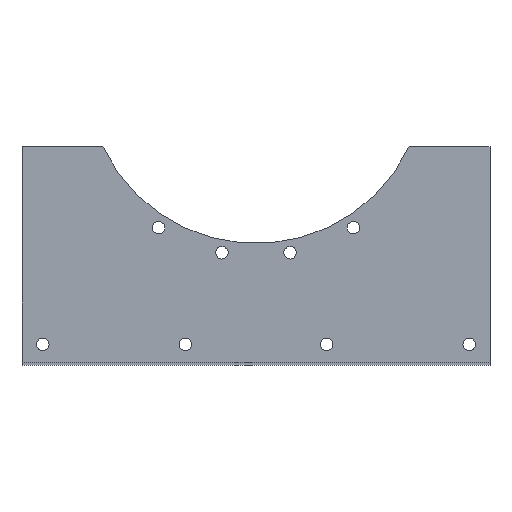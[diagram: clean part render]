
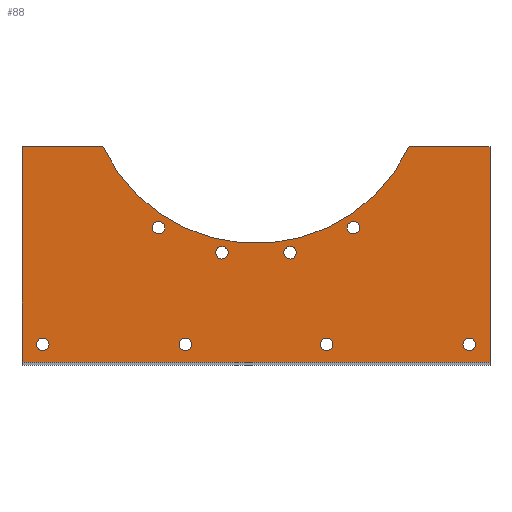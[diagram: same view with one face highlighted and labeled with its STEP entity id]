
A CAD part, top view. The second image highlights one B-rep face of the part: STEP entity #88.
In plain terms, the highlighted planar face has unit normal (0, 0, 1).
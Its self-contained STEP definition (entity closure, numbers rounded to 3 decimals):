
#88=ADVANCED_FACE('',(#184,#185,#186,#187,#188,#189,#190,#191,#192),#193,.T.);
#184=FACE_BOUND('',#285,.T.);
#185=FACE_BOUND('',#286,.T.);
#186=FACE_BOUND('',#287,.T.);
#187=FACE_BOUND('',#288,.T.);
#188=FACE_BOUND('',#289,.T.);
#189=FACE_BOUND('',#290,.T.);
#190=FACE_BOUND('',#291,.T.);
#191=FACE_BOUND('',#292,.T.);
#192=FACE_OUTER_BOUND('',#293,.T.);
#193=PLANE('',#294);
#285=EDGE_LOOP('',(#485,#486));
#286=EDGE_LOOP('',(#487,#488));
#287=EDGE_LOOP('',(#489,#490));
#288=EDGE_LOOP('',(#491,#492));
#289=EDGE_LOOP('',(#493,#494));
#290=EDGE_LOOP('',(#495,#496));
#291=EDGE_LOOP('',(#497,#498));
#292=EDGE_LOOP('',(#499,#500));
#293=EDGE_LOOP('',(#501,#502,#503,#504,#505,#506));
#294=AXIS2_PLACEMENT_3D('',#507,#508,#509);
#485=ORIENTED_EDGE('',*,*,#599,.T.);
#486=ORIENTED_EDGE('',*,*,#604,.T.);
#487=ORIENTED_EDGE('',*,*,#594,.T.);
#488=ORIENTED_EDGE('',*,*,#607,.T.);
#489=ORIENTED_EDGE('',*,*,#589,.T.);
#490=ORIENTED_EDGE('',*,*,#610,.T.);
#491=ORIENTED_EDGE('',*,*,#584,.T.);
#492=ORIENTED_EDGE('',*,*,#613,.T.);
#493=ORIENTED_EDGE('',*,*,#579,.T.);
#494=ORIENTED_EDGE('',*,*,#616,.T.);
#495=ORIENTED_EDGE('',*,*,#574,.T.);
#496=ORIENTED_EDGE('',*,*,#619,.T.);
#497=ORIENTED_EDGE('',*,*,#569,.T.);
#498=ORIENTED_EDGE('',*,*,#622,.T.);
#499=ORIENTED_EDGE('',*,*,#564,.T.);
#500=ORIENTED_EDGE('',*,*,#625,.T.);
#501=ORIENTED_EDGE('',*,*,#627,.T.);
#502=ORIENTED_EDGE('',*,*,#641,.F.);
#503=ORIENTED_EDGE('',*,*,#642,.F.);
#504=ORIENTED_EDGE('',*,*,#643,.F.);
#505=ORIENTED_EDGE('',*,*,#644,.F.);
#506=ORIENTED_EDGE('',*,*,#638,.F.);
#507=CARTESIAN_POINT('',(0.0,3.0,-17.0));
#508=DIRECTION('',(0.0,0.0,1.0));
#509=DIRECTION('',(1.0,0.0,0.0));
#564=EDGE_CURVE('',#664,#661,#665,.T.);
#569=EDGE_CURVE('',#673,#670,#674,.T.);
#574=EDGE_CURVE('',#682,#679,#683,.T.);
#579=EDGE_CURVE('',#691,#688,#692,.T.);
#584=EDGE_CURVE('',#700,#697,#701,.T.);
#589=EDGE_CURVE('',#709,#706,#710,.T.);
#594=EDGE_CURVE('',#718,#715,#719,.T.);
#599=EDGE_CURVE('',#727,#724,#728,.T.);
#604=EDGE_CURVE('',#724,#727,#734,.T.);
#607=EDGE_CURVE('',#715,#718,#737,.T.);
#610=EDGE_CURVE('',#706,#709,#740,.T.);
#613=EDGE_CURVE('',#697,#700,#743,.T.);
#616=EDGE_CURVE('',#688,#691,#746,.T.);
#619=EDGE_CURVE('',#679,#682,#749,.T.);
#622=EDGE_CURVE('',#670,#673,#752,.T.);
#625=EDGE_CURVE('',#661,#664,#755,.T.);
#627=EDGE_CURVE('',#757,#758,#759,.T.);
#638=EDGE_CURVE('',#757,#776,#777,.T.);
#641=EDGE_CURVE('',#780,#758,#781,.T.);
#642=EDGE_CURVE('',#782,#780,#783,.T.);
#643=EDGE_CURVE('',#784,#782,#785,.T.);
#644=EDGE_CURVE('',#776,#784,#786,.T.);
#661=VERTEX_POINT('',#807);
#664=VERTEX_POINT('',#811);
#665=CIRCLE('',#812,6.0);
#670=VERTEX_POINT('',#818);
#673=VERTEX_POINT('',#822);
#674=CIRCLE('',#823,6.0);
#679=VERTEX_POINT('',#829);
#682=VERTEX_POINT('',#833);
#683=CIRCLE('',#834,6.0);
#688=VERTEX_POINT('',#840);
#691=VERTEX_POINT('',#844);
#692=CIRCLE('',#845,6.0);
#697=VERTEX_POINT('',#851);
#700=VERTEX_POINT('',#855);
#701=CIRCLE('',#856,6.0);
#706=VERTEX_POINT('',#862);
#709=VERTEX_POINT('',#866);
#710=CIRCLE('',#867,6.0);
#715=VERTEX_POINT('',#873);
#718=VERTEX_POINT('',#877);
#719=CIRCLE('',#878,6.0);
#724=VERTEX_POINT('',#884);
#727=VERTEX_POINT('',#888);
#728=CIRCLE('',#889,6.0);
#734=CIRCLE('',#896,6.0);
#737=CIRCLE('',#899,6.0);
#740=CIRCLE('',#902,6.0);
#743=CIRCLE('',#905,6.0);
#746=CIRCLE('',#908,6.0);
#749=CIRCLE('',#911,6.0);
#752=CIRCLE('',#914,6.0);
#755=CIRCLE('',#917,6.0);
#757=VERTEX_POINT('',#919);
#758=VERTEX_POINT('',#920);
#759=CIRCLE('',#921,163.0);
#776=VERTEX_POINT('',#945);
#777=LINE('',#946,#947);
#780=VERTEX_POINT('',#951);
#781=LINE('',#952,#953);
#782=VERTEX_POINT('',#954);
#783=LINE('',#955,#956);
#784=VERTEX_POINT('',#957);
#785=LINE('',#958,#959);
#786=LINE('',#960,#961);
#807=CARTESIAN_POINT('',(-199.0,-85.0,-17.0));
#811=CARTESIAN_POINT('',(-211.0,-85.0,-17.0));
#812=AXIS2_PLACEMENT_3D('',#991,#992,#993);
#818=CARTESIAN_POINT('',(211.0,-85.0,-17.0));
#822=CARTESIAN_POINT('',(199.0,-85.0,-17.0));
#823=AXIS2_PLACEMENT_3D('',#999,#1000,#1001);
#829=CARTESIAN_POINT('',(-62.0,-85.0,-17.0));
#833=CARTESIAN_POINT('',(-74.0,-85.0,-17.0));
#834=AXIS2_PLACEMENT_3D('',#1007,#1008,#1009);
#840=CARTESIAN_POINT('',(74.0,-85.0,-17.0));
#844=CARTESIAN_POINT('',(62.0,-85.0,-17.0));
#845=AXIS2_PLACEMENT_3D('',#1015,#1016,#1017);
#851=CARTESIAN_POINT('',(38.685,4.224,-17.0));
#855=CARTESIAN_POINT('',(26.898,1.975,-17.0));
#856=AXIS2_PLACEMENT_3D('',#1023,#1024,#1025);
#862=CARTESIAN_POINT('',(-26.898,1.975,-17.0));
#866=CARTESIAN_POINT('',(-38.685,4.224,-17.0));
#867=AXIS2_PLACEMENT_3D('',#1031,#1032,#1033);
#873=CARTESIAN_POINT('',(-88.704,24.028,-17.0));
#877=CARTESIAN_POINT('',(-98.836,30.458,-17.0));
#878=AXIS2_PLACEMENT_3D('',#1039,#1040,#1041);
#884=CARTESIAN_POINT('',(98.836,30.458,-17.0));
#888=CARTESIAN_POINT('',(88.704,24.028,-17.0));
#889=AXIS2_PLACEMENT_3D('',#1047,#1048,#1049);
#896=AXIS2_PLACEMENT_3D('',#1057,#1058,#1059);
#899=AXIS2_PLACEMENT_3D('',#1063,#1064,#1065);
#902=AXIS2_PLACEMENT_3D('',#1069,#1070,#1071);
#905=AXIS2_PLACEMENT_3D('',#1075,#1076,#1077);
#908=AXIS2_PLACEMENT_3D('',#1081,#1082,#1083);
#911=AXIS2_PLACEMENT_3D('',#1087,#1088,#1089);
#914=AXIS2_PLACEMENT_3D('',#1093,#1094,#1095);
#917=AXIS2_PLACEMENT_3D('',#1099,#1100,#1101);
#919=CARTESIAN_POINT('',(147.204,105.0,-17.0));
#920=CARTESIAN_POINT('',(-147.204,105.0,-17.0));
#921=AXIS2_PLACEMENT_3D('',#1102,#1103,#1104);
#945=CARTESIAN_POINT('',(225.0,105.0,-17.0));
#946=CARTESIAN_POINT('',(0.0,105.0,-17.0));
#947=VECTOR('',#1115,1.0);
#951=CARTESIAN_POINT('',(-225.0,105.0,-17.0));
#952=CARTESIAN_POINT('',(0.0,105.0,-17.0));
#953=VECTOR('',#1117,1.0);
#954=CARTESIAN_POINT('',(-225.0,-102.0,-17.0));
#955=CARTESIAN_POINT('',(-225.0,1.5,-17.0));
#956=VECTOR('',#1118,1.0);
#957=CARTESIAN_POINT('',(225.0,-102.0,-17.0));
#958=CARTESIAN_POINT('',(0.0,-102.0,-17.0));
#959=VECTOR('',#1119,1.0);
#960=CARTESIAN_POINT('',(225.0,1.5,-17.0));
#961=VECTOR('',#1120,1.0);
#991=CARTESIAN_POINT('',(-205.0,-85.0,-17.0));
#992=DIRECTION('',(0.0,0.0,-1.0));
#993=DIRECTION('',(1.0,0.0,0.0));
#999=CARTESIAN_POINT('',(205.0,-85.0,-17.0));
#1000=DIRECTION('',(0.0,0.0,-1.0));
#1001=DIRECTION('',(1.0,0.0,0.0));
#1007=CARTESIAN_POINT('',(-68.0,-85.0,-17.0));
#1008=DIRECTION('',(0.0,0.0,-1.0));
#1009=DIRECTION('',(1.0,0.0,0.0));
#1015=CARTESIAN_POINT('',(68.0,-85.0,-17.0));
#1016=DIRECTION('',(0.0,0.0,-1.0));
#1017=DIRECTION('',(1.0,0.0,0.0));
#1023=CARTESIAN_POINT('',(32.792,3.1,-17.0));
#1024=DIRECTION('',(0.0,0.0,-1.0));
#1025=DIRECTION('',(0.982,0.187,0.0));
#1031=CARTESIAN_POINT('',(-32.792,3.1,-17.0));
#1032=DIRECTION('',(0.0,-0.0,-1.0));
#1033=DIRECTION('',(0.982,-0.187,0.0));
#1039=CARTESIAN_POINT('',(-93.77,27.243,-17.0));
#1040=DIRECTION('',(0.0,-0.0,-1.0));
#1041=DIRECTION('',(0.844,-0.536,0.0));
#1047=CARTESIAN_POINT('',(93.77,27.243,-17.0));
#1048=DIRECTION('',(0.0,0.0,-1.0));
#1049=DIRECTION('',(0.844,0.536,0.0));
#1057=CARTESIAN_POINT('',(93.77,27.243,-17.0));
#1058=DIRECTION('',(0.0,0.0,-1.0));
#1059=DIRECTION('',(0.844,0.536,0.0));
#1063=CARTESIAN_POINT('',(-93.77,27.243,-17.0));
#1064=DIRECTION('',(0.0,-0.0,-1.0));
#1065=DIRECTION('',(0.844,-0.536,0.0));
#1069=CARTESIAN_POINT('',(-32.792,3.1,-17.0));
#1070=DIRECTION('',(0.0,-0.0,-1.0));
#1071=DIRECTION('',(0.982,-0.187,0.0));
#1075=CARTESIAN_POINT('',(32.792,3.1,-17.0));
#1076=DIRECTION('',(0.0,0.0,-1.0));
#1077=DIRECTION('',(0.982,0.187,0.0));
#1081=CARTESIAN_POINT('',(68.0,-85.0,-17.0));
#1082=DIRECTION('',(0.0,0.0,-1.0));
#1083=DIRECTION('',(1.0,0.0,0.0));
#1087=CARTESIAN_POINT('',(-68.0,-85.0,-17.0));
#1088=DIRECTION('',(0.0,0.0,-1.0));
#1089=DIRECTION('',(1.0,0.0,0.0));
#1093=CARTESIAN_POINT('',(205.0,-85.0,-17.0));
#1094=DIRECTION('',(0.0,0.0,-1.0));
#1095=DIRECTION('',(1.0,0.0,0.0));
#1099=CARTESIAN_POINT('',(-205.0,-85.0,-17.0));
#1100=DIRECTION('',(0.0,0.0,-1.0));
#1101=DIRECTION('',(1.0,0.0,0.0));
#1102=CARTESIAN_POINT('',(0.0,175.0,-17.0));
#1103=DIRECTION('',(0.0,0.0,-1.0));
#1104=DIRECTION('',(1.0,0.0,0.0));
#1115=DIRECTION('',(1.0,0.0,-0.0));
#1117=DIRECTION('',(1.0,0.0,-0.0));
#1118=DIRECTION('',(0.0,1.0,0.0));
#1119=DIRECTION('',(-1.0,0.0,0.0));
#1120=DIRECTION('',(0.0,-1.0,0.0));
